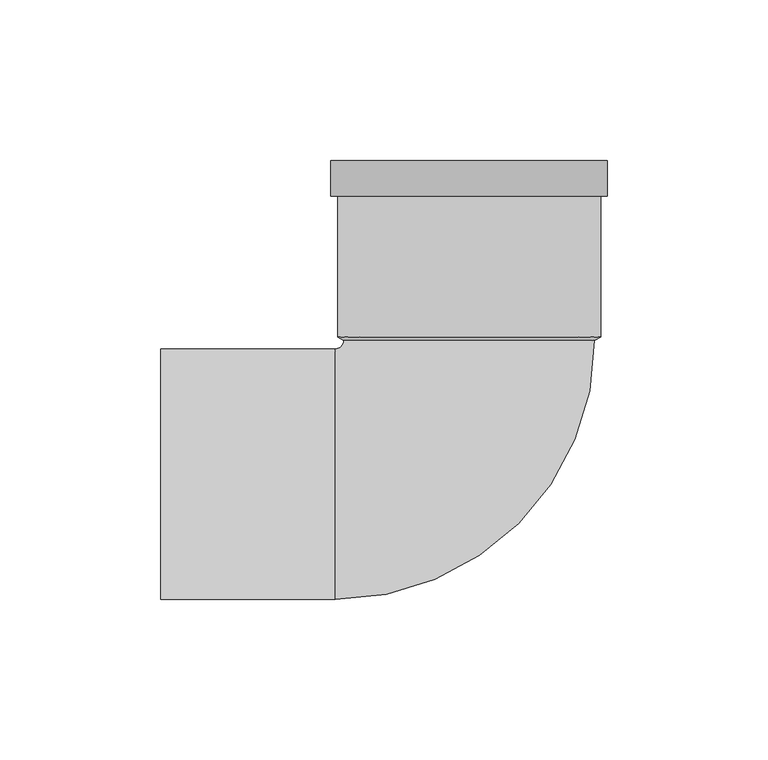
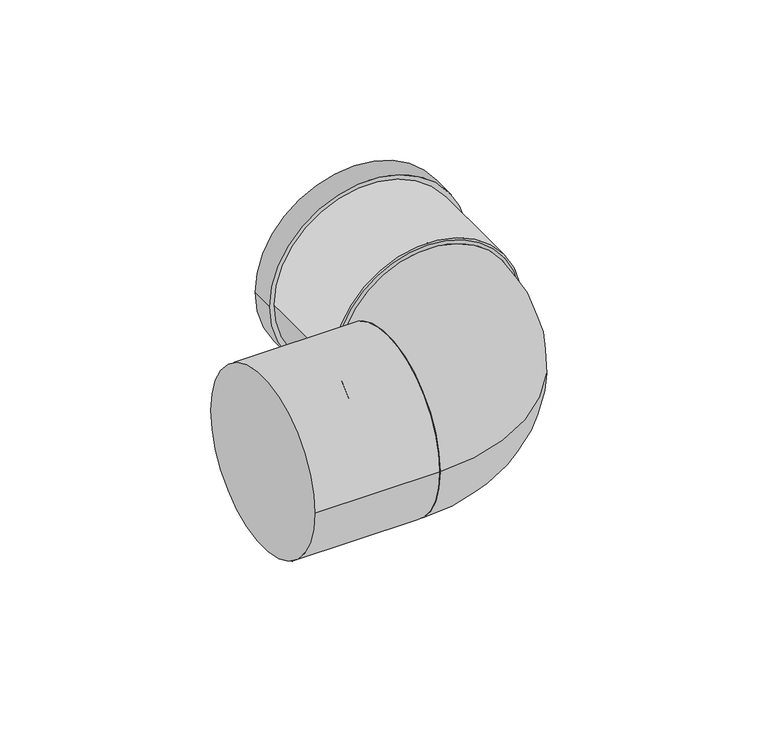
"""IFC4 building model written with IfcOpenShell, lengths in millimetres: pipe fitting geometry, Superdrain SKB Bend : Superdrain SKB Bend."""

import ifcopenshell
import ifcopenshell.guid

model = None  # the IFC model being written
_history = None  # IfcOwnerHistory: only IFC2X3 demands one
_inside = {}  # id of a spatial element -> (the spatial element, [elements in it])
_under = {}  # id of a project, library or spatial element -> (it, [spatial elements below it])
_declared = {}  # id of a project -> (the project, [libraries it declares])
_typed = {}  # id of a type object -> (the type object, [elements of that type])
_made_of = {}  # id of a material, layer set ... -> (it, [elements and type objects made of it])


def new_model(schema):
    """Start an empty IFC model of exactly this schema.

    Asked for "IFC4X3", IfcOpenShell would pick the latest addendum, in which some entities
    have other attributes; the version numbers below select the first issue.
    IFC2X3 requires an IfcOwnerHistory on every rooted entity: one is made here for all.
    """
    global model, _history
    if schema == "IFC4X3":
        model = ifcopenshell.file(schema_version=(4, 3, 0, 0))
    else:
        model = ifcopenshell.file(schema=schema)
    _inside.clear()
    _under.clear()
    _declared.clear()
    _typed.clear()
    _made_of.clear()
    _history = None
    if model.schema == "IFC2X3":
        org = make("IfcOrganization", Name="unknown")
        user = make(
            "IfcPersonAndOrganization",
            ThePerson=make("IfcPerson", FamilyName="unknown"),
            TheOrganization=org,
        )
        app = make(
            "IfcApplication",
            ApplicationDeveloper=org,
            Version="unknown",
            ApplicationFullName="unknown",
            ApplicationIdentifier="unknown",
        )
        _history = make(
            "IfcOwnerHistory",
            OwningUser=user,
            OwningApplication=app,
            ChangeAction="ADDED",
            CreationDate=0,
        )
    return model


def make(cls, **values):
    """One entity of the class cls with the attributes given. An attribute that is None is left unset."""
    return model.create_entity(
        cls, **{name: value for name, value in values.items() if value is not None}
    )


def rooted(cls, **values):
    """An entity with a GlobalId (a new one), such as an element, a storey or a relation."""
    return make(cls, GlobalId=ifcopenshell.guid.new(), OwnerHistory=_history, **values)


def si_unit(unit_type, name, prefix=None):
    """IfcSIUnit, for example si_unit("LENGTHUNIT", "METRE", prefix="MILLI")."""
    return make("IfcSIUnit", UnitType=unit_type, Prefix=prefix, Name=name)


def assignment(units):
    """IfcUnitAssignment: the units of a project."""
    return None if units is None else make("IfcUnitAssignment", Units=units)


def point(xyz):
    """IfcCartesianPoint."""
    return None if xyz is None else make("IfcCartesianPoint", Coordinates=xyz)


def direction(xyz):
    """IfcDirection."""
    return None if xyz is None else make("IfcDirection", DirectionRatios=xyz)


def frame(location, z_axis=None, x_axis=None):
    """IfcAxis2Placement3D, a coordinate frame: its origin and axes. An axis left out is left unset."""
    return make(
        "IfcAxis2Placement3D",
        Location=point(location),
        Axis=direction(z_axis),
        RefDirection=direction(x_axis),
    )


def frame_2d(location, x_axis=None):
    """IfcAxis2Placement2D, a coordinate frame in the plane: its origin and x axis."""
    return make(
        "IfcAxis2Placement2D", Location=point(location), RefDirection=direction(x_axis)
    )


def origin():
    """The frame at (0, 0, 0) with its axes left unset."""
    return frame((0.0, 0.0, 0.0))


def origin_2d():
    """The frame at (0, 0) in the plane with its x axis left unset."""
    return frame_2d((0.0, 0.0))


def place(relative_to, where):
    """IfcLocalPlacement: puts the frame where relative to a parent placement (None: the world)."""
    return make(
        "IfcLocalPlacement", PlacementRelTo=relative_to, RelativePlacement=where
    )


def context(
    kind, dimensions, precision=None, world=None, true_north=None, identifier=None
):
    """IfcGeometricRepresentationContext, for example the 3D "Model" context."""
    return make(
        "IfcGeometricRepresentationContext",
        ContextIdentifier=identifier,
        ContextType=kind,
        CoordinateSpaceDimension=dimensions,
        Precision=precision,
        WorldCoordinateSystem=world,
        TrueNorth=true_north,
    )


def project(units=None, contexts=None):
    """IfcProject with its units and contexts."""
    return rooted(
        "IfcProject",
        Name="project",
        RepresentationContexts=contexts,
        UnitsInContext=assignment(units),
    )


def spatial(cls, under=None, at=None, **own):
    """A site, building, storey or space (cls), placed at a placement, below another one or the project."""
    s = rooted(cls, ObjectPlacement=at, **own)
    if under is not None:
        _under.setdefault(under.id(), (under, []))[1].append(s)
    return s


def polyline(points):
    """IfcPolyline through the points."""
    return make("IfcPolyline", Points=[point(p) for p in points])


def circle_curve(where, radius):
    """IfcCircle in the frame where."""
    return make("IfcCircle", Position=where, Radius=radius)


def ellipse_curve(where, semi_axis1, semi_axis2):
    """IfcEllipse in the frame where."""
    return make(
        "IfcEllipse", Position=where, SemiAxis1=semi_axis1, SemiAxis2=semi_axis2
    )


def trimmed(basis, trim1, trim2, sense, master):
    """IfcTrimmedCurve: the piece of a basis curve between two trims."""
    return make(
        "IfcTrimmedCurve",
        BasisCurve=basis,
        Trim1=trim1,
        Trim2=trim2,
        SenseAgreement=sense,
        MasterRepresentation=master,
    )


def segment(curve, same_sense, transition):
    """IfcCompositeCurveSegment."""
    return make(
        "IfcCompositeCurveSegment",
        Transition=transition,
        SameSense=same_sense,
        ParentCurve=curve,
    )


def composite_curve(segments, self_intersect=None):
    """IfcCompositeCurve: segments joined end to end."""
    return make("IfcCompositeCurve", Segments=segments, SelfIntersect=self_intersect)


def outline(outer, holes=None, kind="AREA"):
    """IfcArbitraryClosedProfileDef: a profile drawn as a closed curve; with holes, ...WithVoids."""
    if holes is None:
        return make("IfcArbitraryClosedProfileDef", ProfileType=kind, OuterCurve=outer)
    return make(
        "IfcArbitraryProfileDefWithVoids",
        ProfileType=kind,
        OuterCurve=outer,
        InnerCurves=holes,
    )


def extrude(swept, where, along, depth):
    """IfcExtrudedAreaSolid: the profile swept, set in the frame where, extruded along a direction by depth."""
    return make(
        "IfcExtrudedAreaSolid",
        SweptArea=swept,
        Position=where,
        ExtrudedDirection=direction(along),
        Depth=depth,
    )


def shape(context_of_items, identifier, shape_type, items):
    """IfcShapeRepresentation: the items that make up one representation, for example the "Body"."""
    return make(
        "IfcShapeRepresentation",
        ContextOfItems=context_of_items,
        RepresentationIdentifier=identifier,
        RepresentationType=shape_type,
        Items=items,
    )


def source(mapping_origin, context_of_items, identifier, shape_type, items):
    """IfcRepresentationMap: a shape defined once, which mapped items show again and again."""
    return make(
        "IfcRepresentationMap",
        MappingOrigin=mapping_origin,
        MappedRepresentation=shape(context_of_items, identifier, shape_type, items),
    )


def transform(
    local_origin,
    x_axis=None,
    y_axis=None,
    z_axis=None,
    scale=None,
    scale2=None,
    scale3=None,
    uniform=True,
):
    """IfcCartesianTransformationOperator3D, or its non-uniform kind. x_axis, y_axis, z_axis: its Axis1, 2, 3."""
    if uniform:
        return make(
            "IfcCartesianTransformationOperator3D",
            Axis1=direction(x_axis),
            Axis2=direction(y_axis),
            LocalOrigin=point(local_origin),
            Scale=scale,
            Axis3=direction(z_axis),
        )
    return make(
        "IfcCartesianTransformationOperator3DnonUniform",
        Axis1=direction(x_axis),
        Axis2=direction(y_axis),
        LocalOrigin=point(local_origin),
        Scale=scale,
        Axis3=direction(z_axis),
        Scale2=scale2,
        Scale3=scale3,
    )


def mapped(mapping_source, mapping_target):
    """IfcMappedItem: shows the shape of a source again, moved by a transform."""
    return make(
        "IfcMappedItem", MappingSource=mapping_source, MappingTarget=mapping_target
    )


def made_of(thing, what):
    """Note that an element or type object is made of a material, layer set ...; save() writes the relation."""
    if what is not None:
        _made_of.setdefault(what.id(), (what, []))[1].append(thing)
    return thing


def element(
    cls,
    number,
    at=None,
    inside=None,
    cuts=None,
    type_object=None,
    material=None,
    context=None,
    identifier="Body",
    shape_type=None,
    held_by="IfcProductDefinitionShape",
    body=None,
    shapes=None,
    **own,
):
    """One element of the class cls, such as IfcWall. Its Tag is "e" and its number.

    at: its placement. inside: the storey or other place that contains it. cuts: it is an
    opening in that element (IfcRelVoidsElement). A single representation is given by context,
    identifier, shape_type and body (its items); several are given by shapes. held_by: the class
    of the entity that holds the representations. save() writes the other relations.
    """
    e = rooted(cls, Tag="e%d" % number, ObjectPlacement=at, **own)
    if body is not None:
        shapes = [shape(context, identifier, shape_type, body)]
    if shapes is not None:
        e.Representation = make(held_by, Representations=shapes)
    if inside is not None:
        _inside.setdefault(inside.id(), (inside, []))[1].append(e)
    if cuts is not None:
        rooted(
            "IfcRelVoidsElement", RelatingBuildingElement=cuts, RelatedOpeningElement=e
        )
    if type_object is not None:
        _typed.setdefault(type_object.id(), (type_object, []))[1].append(e)
    return made_of(e, material)


def aggregate(whole, parts):
    """IfcRelAggregates: a whole, such as a stair, and the parts it consists of."""
    return rooted("IfcRelAggregates", RelatingObject=whole, RelatedObjects=parts)


def save(model, path):
    """Write the relations noted so far, then the file.

    IfcRelAggregates (storeys below a building ...), IfcRelContainedInSpatialStructure (elements
    in a storey), IfcRelDefinesByType, IfcRelAssociatesMaterial and IfcRelDeclares: one each for
    every whole, place, type object, material and project.
    """
    for whole, parts in _under.values():
        aggregate(whole, parts)
    for where, things in _inside.values():
        rooted(
            "IfcRelContainedInSpatialStructure",
            RelatedElements=things,
            RelatingStructure=where,
        )
    for kind, things in _typed.values():
        rooted("IfcRelDefinesByType", RelatedObjects=things, RelatingType=kind)
    for what, things in _made_of.values():
        rooted("IfcRelAssociatesMaterial", RelatedObjects=things, RelatingMaterial=what)
    for by, libraries in _declared.values():
        rooted("IfcRelDeclares", RelatingContext=by, RelatedDefinitions=libraries)
    model.write(path)


def plane_surface(at):
    """IfcPlane: the flat surface through the origin of the frame at, square to its z axis."""
    return make("IfcPlane", Position=at)


def revolved_surface(curve, axis_point, axis_direction):
    """IfcSurfaceOfRevolution: the curve turned about the line through axis_point along axis_direction."""
    return make(
        "IfcSurfaceOfRevolution",
        SweptCurve=make("IfcArbitraryOpenProfileDef", ProfileType="CURVE", Curve=curve),
        AxisPosition=make("IfcAxis1Placement", Location=point(axis_point), Axis=direction(axis_direction)),
    )


def advanced_brep(points, edges, surfaces, faces):
    """IfcAdvancedBrep: a solid bounded by faces that lie on surfaces and meet in shared edges.

    An edge is (start, end): straight between two places in points (the first is 0);
    or (start, end, curve); or (start, end, curve, False) where it runs against its curve.
    A face is (place in surfaces, loops), or (place, loops, False) where it looks against
    its surface's normal. A loop lists edges by number (the first is 1), with a minus sign
    where the edge is run from its end to its start. The first loop is the outer one.
    """
    corners = [point(p) for p in points]
    vertices = [make("IfcVertexPoint", VertexGeometry=c) for c in corners]
    made = []
    for start, end, *more in edges:
        made.append(
            make(
                "IfcEdgeCurve",
                EdgeStart=vertices[start],
                EdgeEnd=vertices[end],
                EdgeGeometry=more[0] if more else make("IfcPolyline", Points=[corners[start], corners[end]]),
                SameSense=more[1] if len(more) > 1 else True,
            )
        )
    hull = []
    for where, loops, *sense in faces:
        bounds = []
        for j, loop in enumerate(loops):
            ring = [make("IfcOrientedEdge", EdgeElement=made[abs(k) - 1], Orientation=k > 0) for k in loop]
            bounds.append(
                make(
                    "IfcFaceOuterBound" if j == 0 else "IfcFaceBound",
                    Bound=make("IfcEdgeLoop", EdgeList=ring),
                    Orientation=True,
                )
            )
        hull.append(make("IfcAdvancedFace", Bounds=bounds, FaceSurface=surfaces[where], SameSense=sense[0] if sense else True))
    return make("IfcAdvancedBrep", Outer=make("IfcClosedShell", CfsFaces=hull))


def pipe_fitting_59a59377(model_context):
    return source(origin(), model_context, "Body", "SolidModel", [
        advanced_brep(
        [(39.0, 41.6, 0.0), (-39.0, 41.6, 0.0), (-41.6, -39.0, 0.0), (-41.6, 39.0, 0.0)],
        [
            (0, 1, circle_curve(frame((0.0, 41.6, 0.0), z_axis=(0.0, 1.0, 0.0), x_axis=(-1.0, 0.0, 0.0)), 39.0)),
            (1, 0, circle_curve(frame((0.0, 41.6, 0.0), z_axis=(0.0, 1.0, 0.0), x_axis=(-1.0, 0.0, 0.0)), 39.0)),
            (2, 3, circle_curve(frame((-41.6, 0.0, 0.0), z_axis=(-1.0, 0.0, 0.0), x_axis=(0.0, 1.0, 0.0)), 39.0)),
            (3, 2, circle_curve(frame((-41.6, 0.0, 0.0), z_axis=(-1.0, 0.0, 0.0), x_axis=(0.0, 1.0, 0.0)), 39.0)),
            (3, 1, circle_curve(frame((-41.6, 41.6, 0.0), z_axis=(0.0, 0.0, 1.0), x_axis=(1.0, 0.0, 0.0)), 2.6)),
            (0, 2, circle_curve(frame((-41.6, 41.6, 0.0), z_axis=(0.0, 0.0, -1.0), x_axis=(1.0, 0.0, 0.0)), 80.6)),
        ],
        [
            plane_surface(frame((0.0, 41.6, 0.0), z_axis=(0.0, 1.0, 0.0), x_axis=(0.0, 0.0, -1.0))),
            plane_surface(frame((-41.6, 0.0, 0.0), z_axis=(-1.0, 0.0, 0.0), x_axis=(0.0, 0.0, -1.0))),
            revolved_surface(trimmed(ellipse_curve(frame((0.0, 41.6, 0.0), z_axis=(0.0, -1.0, 0.0), x_axis=(-1.0, 0.0, 0.0)), 39.0, 39.0), [point((-39.0, 41.6, 0.0))], [point((39.0, 41.6, 0.0))], True, "CARTESIAN"), (-41.6, 41.6, 0.0), (0.0, 0.0, 1.0)),
            revolved_surface(trimmed(ellipse_curve(frame((0.0, 41.6, 0.0), z_axis=(0.0, -1.0, 0.0), x_axis=(-1.0, 0.0, 0.0)), 39.0, 39.0), [point((39.0, 41.6, 0.0))], [point((-39.0, 41.6, 0.0))], True, "CARTESIAN"), (-41.6, 41.6, 0.0), (0.0, 0.0, 1.0)),
        ],
        [
            (0, [[1, 2]]),
            (1, [[3, 4]]),
            (2, [[-4, 5, -1, 6]]),
            (3, [[-3, -6, -2, -5]]),
        ],
    ),
        extrude(outline(composite_curve([segment(trimmed(circle_curve(origin_2d(), 40.95), [point((0.0, 40.95))], [point((0.0, -40.95))], False, "CARTESIAN"), True, "CONTINUOUS"), segment(trimmed(circle_curve(origin_2d(), 40.95), [point((0.0, -40.95))], [point((0.0, 40.95))], False, "CARTESIAN"), True, "CONTINUOUS")], self_intersect=False), holes=[composite_curve([segment(trimmed(circle_curve(origin_2d(), 39.0), [point((0.0, 39.0))], [point((0.0, -39.0))], True, "CARTESIAN"), True, "CONTINUOUS"), segment(trimmed(circle_curve(origin_2d(), 39.0), [point((0.0, -39.0))], [point((0.0, 39.0))], True, "CARTESIAN"), True, "CONTINUOUS")], self_intersect=False)]), frame((0.0, 42.6, 0.0), z_axis=(0.0, 1.0, 0.0), x_axis=(0.0, 0.0, 1.0)), (0.0, 0.0, 1.0), 55.0),
        extrude(outline(composite_curve([segment(trimmed(circle_curve(origin_2d(), 42.9975), [point((0.0, -42.9975))], [point((0.0, 42.9975))], False, "CARTESIAN"), True, "CONTINUOUS"), segment(trimmed(circle_curve(origin_2d(), 42.9975), [point((0.0, 42.9975))], [point((0.0, -42.9975))], False, "CARTESIAN"), True, "CONTINUOUS")], self_intersect=False), holes=[composite_curve([segment(trimmed(circle_curve(origin_2d(), 39.0), [point((0.0, -39.0))], [point((0.0, 39.0))], True, "CARTESIAN"), True, "CONTINUOUS"), segment(trimmed(circle_curve(origin_2d(), 39.0), [point((0.0, 39.0))], [point((0.0, -39.0))], True, "CARTESIAN"), True, "CONTINUOUS")], self_intersect=False)]), frame((0.0, 86.6, 0.0), z_axis=(0.0, 1.0, 0.0), x_axis=(0.0, 0.0, 1.0)), (0.0, 0.0, 1.0), 11.0),
        advanced_brep(
        [(40.95, 42.6, 0.0), (-40.95, 42.6, 0.0), (39.0, 41.6, 0.0), (-39.0, 41.6, 0.0)],
        [
            (0, 1, circle_curve(frame((0.0, 42.6, 0.0), z_axis=(0.0, 1.0, 0.0), x_axis=(1.0, 0.0, 0.0)), 40.95)),
            (1, 0, circle_curve(frame((0.0, 42.6, 0.0), z_axis=(0.0, 1.0, 0.0), x_axis=(-1.0, 0.0, 0.0)), 40.95)),
            (2, 3, circle_curve(frame((0.0, 41.6, 0.0), z_axis=(0.0, -1.0, 0.0), x_axis=(-1.0, 0.0, 0.0)), 39.0)),
            (3, 2, circle_curve(frame((0.0, 41.6, 0.0), z_axis=(0.0, -1.0, 0.0), x_axis=(1.0, 0.0, 0.0)), 39.0)),
            (3, 1),
            (0, 2),
        ],
        [
            plane_surface(frame((0.0, 42.6, 0.0), z_axis=(0.0, 1.0, 0.0), x_axis=(0.0, 0.0, -1.0))),
            plane_surface(frame((0.0, 41.6, 0.0), z_axis=(0.0, -1.0, 0.0), x_axis=(0.0, 0.0, -1.0))),
            revolved_surface(polyline([(-39.0, 41.6, 0.0), (-40.95, 42.6, 0.0)]), (0.0, 21.6, 0.0), (0.0, 1.0, 0.0)),
            revolved_surface(polyline([(39.0, 41.6, 0.0), (40.95, 42.6, 0.0)]), (0.0, 21.6, 0.0), (0.0, 1.0, 0.0)),
        ],
        [
            (0, [[1, 2]]),
            (1, [[3, 4]]),
            (2, [[-4, 5, -1, 6]]),
            (3, [[-3, -6, -2, -5]]),
        ],
    ),
        extrude(outline(composite_curve([segment(trimmed(circle_curve(origin_2d(), 39.0), [point((-39.0, 0.0))], [point((39.0, 0.0))], False, "CARTESIAN"), True, "CONTINUOUS"), segment(trimmed(circle_curve(origin_2d(), 39.0), [point((39.0, 0.0))], [point((-39.0, 0.0))], False, "CARTESIAN"), True, "CONTINUOUS")], self_intersect=False)), frame((-96.0, 0.0, 0.0), z_axis=(1.0, 0.0, 0.0), x_axis=(0.0, 1.0, 0.0)), (0.0, 0.0, 1.0), 54.4),
    ])


if __name__ == "__main__":
    model = new_model("IFC4")
    model_context = context("Model", 3, world=origin())
    ifc_project = project(units=[si_unit("LENGTHUNIT", "METRE", prefix="MILLI")], contexts=[model_context])
    site = spatial("IfcSite", under=ifc_project)
    building = spatial("IfcBuilding", under=site)
    placement = place(None, origin())
    pipe_fitting_shape = pipe_fitting_59a59377(model_context)
    element("IfcPipeFitting", 1, ObjectType="Superdrain SKB Bend : Superdrain SKB Bend", at=placement, inside=building, context=model_context, shape_type="MappedRepresentation", body=[
        mapped(pipe_fitting_shape, transform((0.0, 0.0, 0.0), x_axis=(1.0, 0.0, 0.0), y_axis=(0.0, 1.0, 0.0), z_axis=(0.0, 0.0, 1.0))),
    ])
    save(model, "model.ifc")
